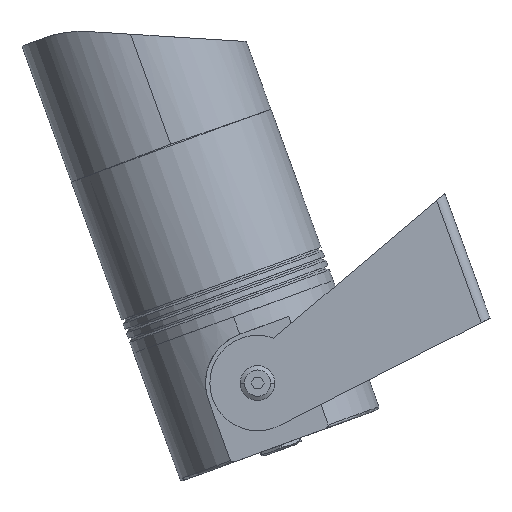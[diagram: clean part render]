
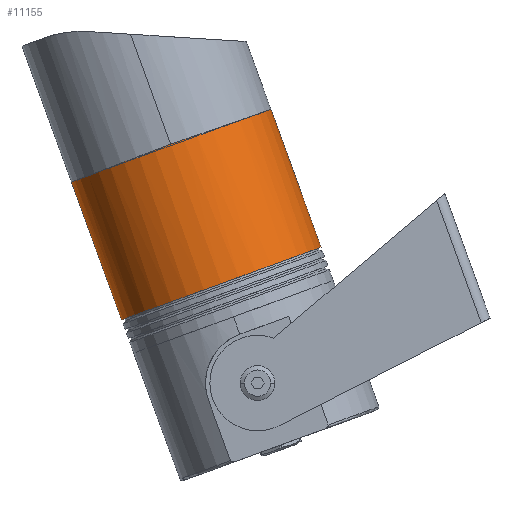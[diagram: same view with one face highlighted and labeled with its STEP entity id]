
A CAD part, left-side view. The second image highlights one B-rep face of the part: STEP entity #11155.
In plain terms, the highlighted cylindrical face has radius 37.5 mm (diameter 75 mm), a partial arc.
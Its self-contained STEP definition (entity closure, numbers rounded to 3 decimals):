
#34=CARTESIAN_POINT('',(-64.908,0.,
-37.5));
#35=CARTESIAN_POINT('',(-64.876,1.8,-37.5));
#36=CARTESIAN_POINT('',(-64.814,5.356,-37.244));
#37=CARTESIAN_POINT('',(-64.722,10.611,-36.101));
#38=CARTESIAN_POINT('',(-64.635,15.638,-34.224));
#39=CARTESIAN_POINT('',(-64.552,20.347,-31.652));
#40=CARTESIAN_POINT('',(-64.477,24.641,-28.436));
#41=CARTESIAN_POINT('',(-64.411,28.435,-24.643));
#42=CARTESIAN_POINT('',(-64.355,31.65,-20.349));
#43=CARTESIAN_POINT('',(-64.31,34.223,-15.64));
#44=CARTESIAN_POINT('',(-64.277,36.1,-10.612));
#45=CARTESIAN_POINT('',(-64.257,37.244,-5.357));
#46=CARTESIAN_POINT('',(-64.253,37.5,-1.8));
#47=CARTESIAN_POINT('',(-64.253,37.5,0.));
#49=CARTESIAN_POINT('',(-64.253,37.5,0.));
#79=CARTESIAN_POINT('',(-64.253,-37.5,0.));
#80=CARTESIAN_POINT('',(-64.253,-37.5,-1.8));
#81=CARTESIAN_POINT('',(-64.257,-37.244,-5.357));
#82=CARTESIAN_POINT('',(-64.277,-36.1,-10.612));
#83=CARTESIAN_POINT('',(-64.31,-34.223,-15.64));
#84=CARTESIAN_POINT('',(-64.355,-31.65,-20.349));
#85=CARTESIAN_POINT('',(-64.411,-28.434,-24.644));
#86=CARTESIAN_POINT('',(-64.477,-24.641,-28.437));
#87=CARTESIAN_POINT('',(-64.552,-20.347,-31.652));
#88=CARTESIAN_POINT('',(-64.635,-15.638,-34.224));
#89=CARTESIAN_POINT('',(-64.722,-10.611,-36.101));
#90=CARTESIAN_POINT('',(-64.814,-5.356,-37.244));
#91=CARTESIAN_POINT('',(-64.876,-1.8,-37.5));
#92=CARTESIAN_POINT('',(-64.908,0.,
-37.5));
#119=DIRECTION('',(1.,0.,0.));
#120=VECTOR('',#119,51.753);
#121=CARTESIAN_POINT('',(-64.253,-37.5,
0.));
#122=LINE('',#121,#120);
#123=DIRECTION('',(-1.,0.,0.));
#124=VECTOR('',#123,51.753);
#125=CARTESIAN_POINT('',(-12.5,37.5,0.));
#126=LINE('',#125,#124);
#127=CARTESIAN_POINT('',(-12.5,0.,0.));
#128=DIRECTION('',(-1.,0.,0.));
#129=DIRECTION('',(0.,1.,0.));
#130=AXIS2_PLACEMENT_3D('',#127,#128,#129);
#8873=VERTEX_POINT('',#49);
#8875=CARTESIAN_POINT('',(-12.5,37.5,0.));
#8876=VERTEX_POINT('',#8875);
#8877=CARTESIAN_POINT('',(-12.5,-37.5,0.));
#8878=VERTEX_POINT('',#8877);
#8879=CARTESIAN_POINT('',(-64.253,-37.5,
0.));
#8880=VERTEX_POINT('',#8879);
#8884=CARTESIAN_POINT('',(-64.908,0.,
-37.5));
#8885=VERTEX_POINT('',#8884);
#11142=CARTESIAN_POINT('',(3.523,0.,0.));
#11143=DIRECTION('',(1.,0.,0.));
#11144=DIRECTION('',(0.,-1.,0.));
#11145=AXIS2_PLACEMENT_3D('',#11142,#11143,#11144);
#11146=CYLINDRICAL_SURFACE('',#11145,37.5);
#11147=ORIENTED_EDGE('',*,*,#11134,.F.);
#11148=ORIENTED_EDGE('',*,*,#11103,.T.);
#11150=ORIENTED_EDGE('',*,*,#11149,.F.);
#11151=ORIENTED_EDGE('',*,*,#11099,.T.);
#11152=ORIENTED_EDGE('',*,*,#11121,.F.);
#11153=EDGE_LOOP('',(#11147,#11148,#11150,#11151,#11152));
#11154=FACE_OUTER_BOUND('',#11153,.F.);
#11155=ADVANCED_FACE('',(#11154),#11146,.T.);
#48=B_SPLINE_CURVE_WITH_KNOTS('',3,(#34,#35,#36,#37,#38,#39,#40,#41,#42,#43,#44,
#45,#46,#47),.UNSPECIFIED.,.F.,.F.,(4,1,1,1,1,1,1,1,1,1,1,4),(0.,
0.091,0.182,0.273,0.364,
0.455,0.545,0.636,0.727,
0.818,0.909,1.),.UNSPECIFIED.);
#93=B_SPLINE_CURVE_WITH_KNOTS('',3,(#79,#80,#81,#82,#83,#84,#85,#86,#87,#88,#89,
#90,#91,#92),.UNSPECIFIED.,.F.,.F.,(4,1,1,1,1,1,1,1,1,1,1,4),(0.,
0.091,0.182,0.273,0.364,
0.455,0.545,0.636,0.727,
0.818,0.909,1.),.UNSPECIFIED.);
#131=CIRCLE('',#130,37.5);
#11099=EDGE_CURVE('',#8876,#8873,#126,.T.);
#11103=EDGE_CURVE('',#8880,#8878,#122,.T.);
#11121=EDGE_CURVE('',#8885,#8873,#48,.T.);
#11134=EDGE_CURVE('',#8880,#8885,#93,.T.);
#11149=EDGE_CURVE('',#8876,#8878,#131,.T.);
